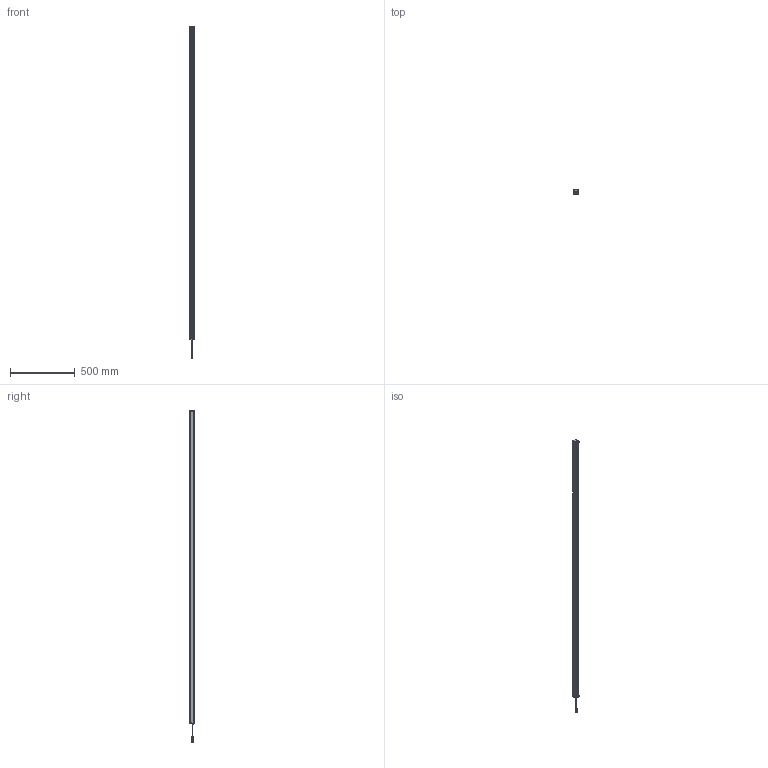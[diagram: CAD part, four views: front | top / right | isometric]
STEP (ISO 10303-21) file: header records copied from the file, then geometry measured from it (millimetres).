
FILE_DESCRIPTION((''),'2;1');
FILE_NAME('PRT0006','2026-04-01T16:08:00',('Administrator'),(''),'CREO PARAMETRIC BY PTC INC, 2016510','CREO PARAMETRIC BY PTC INC, 2016510','');
FILE_SCHEMA(('AUTOMOTIVE_DESIGN { 1 0 10303 214 1 1 1 1 }'));
Length unit declared in the file: millimetre
Products named in the file (1): PRT0006
Bounding box: 33 x 38 x 2561.9 mm (x, y, z)
Surface area: 517151.4 mm2 (no closed solid volume)
Topology: 0 solids, 12 shells, 622 faces, 1753 edges, 1151 vertices
Faces by surface type: plane 301, cylinder 225, torus 32, sphere 32, cone 28, bspline 4
Entity records: 25241 total; most frequent: CARTESIAN_POINT 4735, ORIENTED_EDGE 3418, DIRECTION 3372, EDGE_CURVE 1709, AXIS2_PLACEMENT_3D 1232, VERTEX_POINT 1151, VECTOR 908, LINE 908
